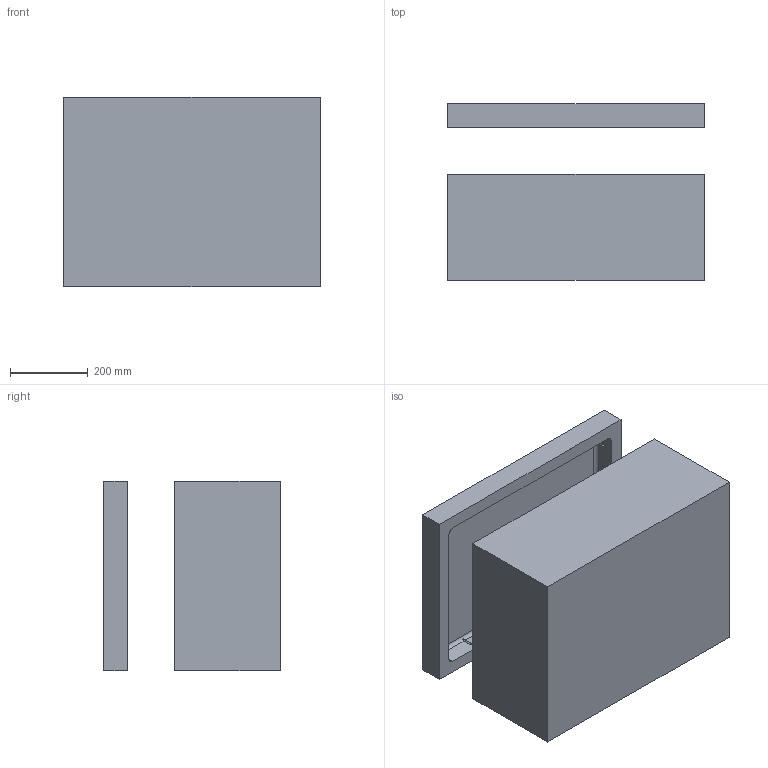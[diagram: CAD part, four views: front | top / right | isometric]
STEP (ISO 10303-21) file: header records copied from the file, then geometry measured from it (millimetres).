
FILE_DESCRIPTION (( 'STEP AP203' ), '1' );
FILE_NAME ('type 6800 v1_5 inside drawing.STEP', '2015-11-09T09:46:19', ( 'Master' ), ( '' ), 'SwSTEP 2.0', 'SolidWorks 2015', '' );
FILE_SCHEMA (( 'CONFIG_CONTROL_DESIGN' ));
Products named in the file (3): bottom scale 6800 v1_5 inside drawing; lid scale 6800 v1_5 inside drawing; type 6800 v1_5 inside drawing
Assembly tree (2 placements, depth 2):
  type 6800 v1_5 inside drawing
    bottom scale 6800 v1_5 inside drawing
    lid scale 6800 v1_5 inside drawing
Bounding box: 661.44 x 455 x 489.43 mm (x, y, z)
Volume: 36857467.5 mm3; surface area: 2655228.8 mm2
Topology: 2 solids, 10 shells, 1756 faces, 4056 edges, 2379 vertices
Faces by surface type: bspline 785, plane 461, cylinder 408, cone 102
Entity records: 75679 total; most frequent: CARTESIAN_POINT 41050, ORIENTED_EDGE 8100, DIRECTION 5856, EDGE_CURVE 4050, VERTEX_POINT 2379, AXIS2_PLACEMENT_3D 2152, EDGE_LOOP 1821, ADVANCED_FACE 1756
